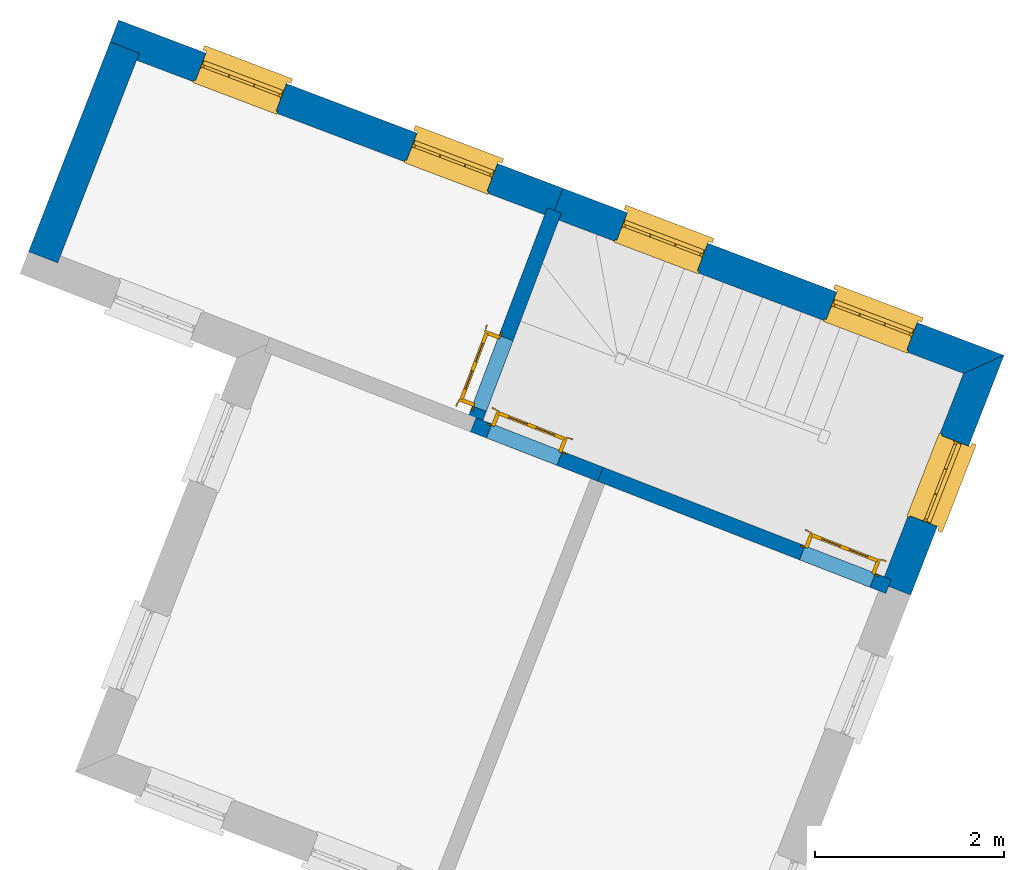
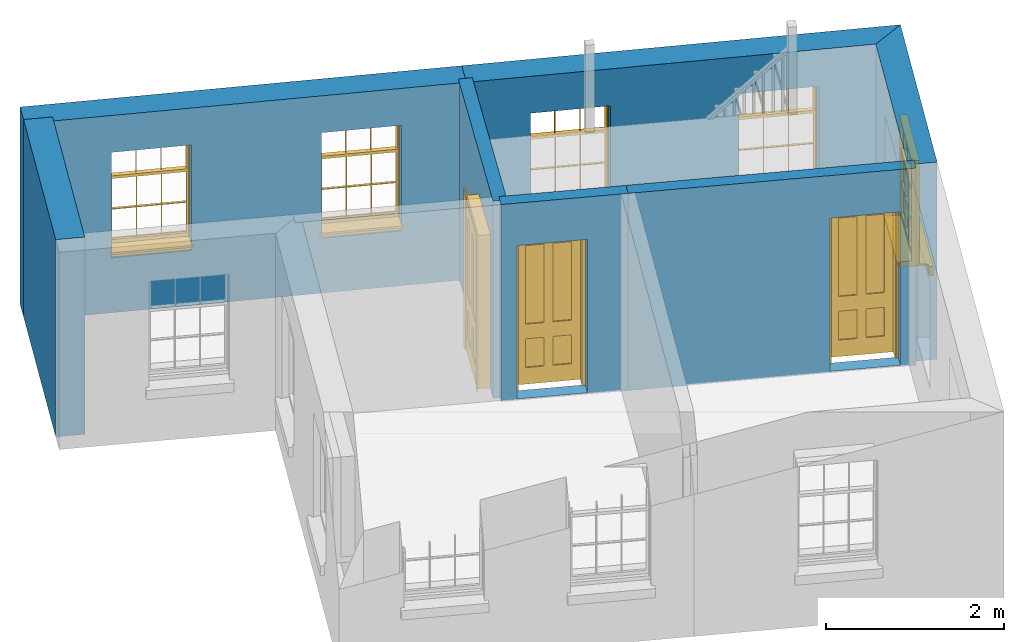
# One storey, part 2 of 2: 7 walls, 5 windows, 3 doors, 8 openings.
"""IFC4 building model written with IfcOpenShell, lengths in metres."""

from ifc_helpers import new_model, si_unit, frame, origin, origin_with_axes, place, context, subcontext, project, spatial, polyline, outline, extrude, faceted_brep, source, transform, mapped, material, layer, layer_set, layer_usage, type_object, type_shapes, element, fill, save


model = new_model("IFC4")

# Units and contexts
model_context = context("Model", 3, world=origin_with_axes())
body_context = subcontext(model_context, "Body", "Model", "MODEL_VIEW")
ifc_project = project(units=[si_unit("PLANEANGLEUNIT", "RADIAN"), si_unit("MASSUNIT", "GRAM", prefix="KILO"), si_unit("FORCEUNIT", "NEWTON", prefix="KILO"), si_unit("LENGTHUNIT", "METRE"), si_unit("AREAUNIT", "SQUARE_METRE"), si_unit("VOLUMEUNIT", "CUBIC_METRE")], contexts=[model_context, model_context])

# Sites, building, storey
site_1_placement = place(None, origin_with_axes())
site_1 = spatial("IfcSite", under=ifc_project, at=site_1_placement, Name="Tamar")
site_2_placement = place(site_1_placement, origin_with_axes())
site_2 = spatial("IfcSite", under=site_1, at=site_2_placement, Name="Site plot-8", CompositionType="ELEMENT")
building_placement = place(None, origin_with_axes())
building = spatial("IfcBuilding", under=site_2, at=building_placement, Name="Building plot-8", CompositionType="ELEMENT")
storey_placement = place(None, frame((0.0, 0.0, 28.85), z_axis=(0.0, 0.0, 1.0), x_axis=(1.0, 0.0, 0.0)))
storey = spatial("IfcBuildingStorey", under=building, at=storey_placement, Name="plot-8 1", CompositionType="ELEMENT", Elevation=28.85)

# Wall, opening, window
ifc_material_1 = material(Name="Masonry")
ifc_layer_1 = layer(ifc_material_1, 0.33, ventilated=False)
ifc_layer_set_1 = layer_set([ifc_layer_1], Name="exterior_0.08_0.25")
ifc_layer_usage_1 = layer_usage(ifc_layer_set_1, "AXIS2", "POSITIVE", -0.25)
wall_type_1 = type_object("IfcWallType", Name="exterior_0.08_0.25", PredefinedType="SOLIDWALL", material=ifc_layer_set_1)
wall_1_placement = place(storey_placement, frame((230.544976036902, 306.768588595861, 0.0), z_axis=(0.0, 0.0, 1.0), x_axis=(0.362808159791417, 0.931863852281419, 0.0)))
wall_1 = element("IfcWall", 1, at=wall_1_placement, inside=storey, type_object=wall_type_1, material=ifc_layer_usage_1, Name="exterior", context=body_context, shape_type="SweptSolid", body=[
    extrude(outline(polyline([(2.13567077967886e-14, 0.0800000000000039), (-2.03572844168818e-14, -0.249999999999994), (2.71687862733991, -0.249999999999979), (2.38382254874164, 0.0800000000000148), (2.13567077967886e-14, 0.0800000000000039)])), origin_with_axes(), (0.0, 0.0, 1.0), 2.7),
])
opening_1_placement = place(wall_1_placement, frame((0.777281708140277, 0.0, 0.75)))
opening_1 = element("IfcOpeningElement", 2, at=opening_1_placement, cuts=wall_1, Name="My Opening", ObjectType="Opening", context=body_context, shape_type="SweptSolid", body=[
    extrude(outline(polyline([(0.0, -0.269999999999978), (0.910000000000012, -0.269999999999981), (0.909999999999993, 1.1), (-1.94289029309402e-14, 1.1), (0.0, -0.269999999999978)])), origin_with_axes(), (0.0, 0.0, 1.0), 1.445),
])
window_type = type_object("IfcWindowType", Name="sash_shorter", PartitioningType="DOUBLE_PANEL_HORIZONTAL", PredefinedType="NOTDEFINED")
shared_shape_1 = source(origin(), body_context, "Body", "Brep", [
    faceted_brep([(0.876875, 0.145, 0.999097), (0.876875, 0.145, 1.411875), (0.9, 0.145, 1.435), (0.033125, 0.145, 1.411875), (0.033125, 0.145, 0.999097), (0.01, 0.145, 1.435), (0.033125, 0.115, 1.411875), (0.01, 0.115, 1.435), (0.033125, 0.115, 0.999097), (0.876875, 0.115, 1.411875), (0.876875, 0.115, 0.999097), (0.9, 0.115, 1.435), (0.033125, 0.145, 0.960972), (0.01, 0.145, 0.960972), (0.033125, 0.145, 0.548195), (0.876875, 0.145, 0.960972), (0.876875, 0.145, 0.548195), (0.9, 0.145, 0.960972), (0.876875, 0.145, 0.538195), (0.876875, 0.145, 0.125417), (0.9, 0.145, 0.077167), (0.033125, 0.145, 0.125417), (0.033125, 0.145, 0.538195), (0.01, 0.145, 0.077167), (0.9, 0.115, 0.960972), (0.01, 0.115, 0.960972), (-0.0425, 0.0, 0.01), (-0.0425, -0.05, 0.001667), (0.0, 0.0, 0.01), (0.9525, 0.0, 0.01), (0.91, 0.0, 0.01), (0.9525, -0.05, 0.001667), (-0.02, 0.33, 0.077167), (0.0, 0.33, 0.077167), (-0.02, 0.36, 0.077167), (0.0, 0.19, 0.077167), (0.01, 0.19, 0.077167), (0.91, 0.19, 0.077167), (0.91, 0.33, 0.077167), (0.9, 0.19, 0.077167), (0.93, 0.33, 0.077167), (0.93, 0.36, 0.077167), (0.01, 0.145, 0.999097), (0.01, 0.175, 0.999097), (0.9, 0.145, 0.999097), (0.9, 0.175, 0.999097), (0.876875, 0.175, 0.125417), (0.876875, 0.175, 0.538195), (0.9, 0.175, 0.077167), (0.876875, 0.175, 0.548195), (0.876875, 0.175, 0.960972), (0.033125, 0.175, 0.125417), (0.01, 0.175, 0.077167), (0.033125, 0.175, 0.538195), (0.033125, 0.175, 0.960972), (0.033125, 0.175, 0.548195), (-0.02, 0.33, 0.052167), (-0.02, 0.36, 0.052167), (0.93, 0.36, 0.052167), (0.93, 0.33, 0.052167), (0.91, 0.33, 0.052167), (0.0, 0.33, 0.052167), (0.91, 0.1, 0.026667), (0.0, 0.1, 0.026667), (-0.0425, -0.05, -0.123333), (0.9525, -0.05, -0.123333), (-0.0425, 0.0, -0.123333), (0.9525, 0.0, -0.123333), (0.01, 0.19, 1.435), (0.9, 0.19, 1.435), (0.0, 0.19, 1.445), (0.91, 0.19, 1.445), (0.01, 0.1, 0.077167), (0.9, 0.1, 0.077167), (0.592292, 0.145, 0.125417), (0.592292, 0.175, 0.125417), (0.317708, 0.175, 0.125417), (0.317708, 0.145, 0.125417), (0.592292, 0.145, 0.548195), (0.317708, 0.145, 0.548195), (0.317708, 0.145, 0.538195), (0.592292, 0.145, 0.538195), (0.592292, 0.175, 0.548195), (0.317708, 0.175, 0.548195), (0.602292, 0.175, 0.548195), (0.602292, 0.145, 0.548195), (0.317708, 0.175, 0.538195), (0.307708, 0.175, 0.125417), (0.307708, 0.175, 0.538195), (0.602292, 0.175, 0.538195), (0.602292, 0.175, 0.125417), (0.592292, 0.175, 0.538195), (0.307708, 0.175, 0.548195), (0.317708, 0.175, 0.960972), (0.307708, 0.175, 0.960972), (0.602292, 0.175, 0.960972), (0.592292, 0.175, 0.960972), (0.307708, 0.145, 0.538195), (0.307708, 0.145, 0.125417), (0.307708, 0.145, 0.548195), (0.307708, 0.145, 0.960972), (0.592292, 0.145, 0.960972), (0.317708, 0.145, 0.960972), (0.602292, 0.145, 0.960972), (0.602292, 0.145, 0.538195), (0.602292, 0.145, 0.125417), (0.317708, 0.115, 1.411875), (0.307708, 0.115, 1.411875), (0.307708, 0.115, 0.999097), (0.317708, 0.115, 0.999097), (0.602292, 0.115, 1.411875), (0.592292, 0.115, 1.411875), (0.592292, 0.115, 0.999097), (0.602292, 0.115, 0.999097), (0.317708, 0.145, 0.999097), (0.307708, 0.145, 0.999097), (0.307708, 0.145, 1.411875), (0.317708, 0.145, 1.411875), (0.602292, 0.145, 0.999097), (0.592292, 0.145, 0.999097), (0.592292, 0.145, 1.411875), (0.602292, 0.145, 1.411875), (0.91, 0.1, 1.445), (0.9, 0.1, 1.435), (0.01, 0.1, 1.435), (0.0, 0.1, 1.445), (0.91, 0.0, 0.0), (0.0, 0.0, 0.0), (0.91, 0.33, 0.0), (0.0, 0.33, 0.0)], [[[0, 1, 2]], [[3, 4, 5]], [[6, 7, 8]], [[9, 10, 11]], [[12, 13, 14]], [[15, 16, 17]], [[18, 19, 20]], [[21, 22, 23]], [[24, 15, 17]], [[13, 12, 25]], [[26, 27, 28]], [[29, 30, 31]], [[32, 33, 34]], [[35, 36, 33]], [[37, 38, 39]], [[40, 41, 38]], [[42, 4, 43]], [[44, 45, 0]], [[46, 47, 48]], [[49, 50, 45]], [[51, 52, 53]], [[54, 55, 43]], [[38, 33, 36, 39]], [[41, 34, 33, 38]], [[56, 32, 34, 57]], [[57, 34, 41, 58]], [[58, 41, 40, 59]], [[57, 58, 60, 61]], [[52, 48, 39, 36]], [[62, 63, 28, 30]], [[27, 31, 30, 28]], [[27, 64, 65, 31]], [[66, 67, 65, 64]], [[2, 5, 68, 69]], [[68, 70, 71, 69]], [[20, 23, 72, 73]], [[73, 72, 63, 62]], [[74, 75, 76, 77]], [[78, 79, 80, 81]], [[78, 82, 83, 79]], [[16, 49, 84, 85]], [[86, 76, 87, 88]], [[89, 90, 75, 91]], [[92, 88, 53, 55]], [[82, 91, 86, 83]], [[93, 83, 92, 94]], [[95, 84, 82, 96]], [[89, 84, 49, 47]], [[97, 88, 87, 98]], [[22, 53, 88, 97]], [[81, 91, 75, 74]], [[80, 86, 91, 81]], [[77, 76, 86, 80]], [[99, 92, 55, 14]], [[100, 94, 92, 99]], [[101, 96, 82, 78]], [[79, 83, 93, 102]], [[85, 84, 95, 103]], [[104, 89, 47, 18]], [[105, 90, 89, 104]], [[104, 18, 16, 85]], [[80, 97, 98, 77]], [[104, 81, 74, 105]], [[103, 101, 78, 85]], [[99, 14, 22, 97]], [[102, 100, 99, 79]], [[106, 107, 108, 109]], [[110, 111, 112, 113]], [[114, 115, 116, 117]], [[118, 119, 120, 121]], [[107, 116, 115, 108]], [[111, 120, 119, 112]], [[109, 114, 117, 106]], [[113, 118, 121, 110]], [[85, 78, 81, 104]], [[84, 89, 91, 82]], [[83, 86, 88, 92]], [[79, 99, 97, 80]], [[109, 112, 119, 114]], [[102, 93, 96, 101]], [[106, 117, 120, 111]], [[98, 87, 51, 21]], [[6, 3, 116, 107]], [[110, 121, 1, 9]], [[19, 46, 90, 105]], [[26, 66, 64, 27]], [[29, 31, 65, 67]], [[25, 24, 112, 109]], [[11, 7, 106, 111]], [[75, 48, 52, 76]], [[43, 45, 96, 93]], [[45, 43, 114, 119]], [[5, 2, 120, 117]], [[24, 25, 102, 101]], [[42, 5, 4]], [[2, 44, 0]], [[49, 45, 48, 47]], [[52, 43, 55, 53]], [[14, 13, 23, 22]], [[20, 17, 16, 18]], [[24, 11, 10]], [[25, 8, 7]], [[8, 4, 3, 6]], [[9, 1, 0, 10]], [[15, 50, 49, 16]], [[18, 47, 46, 19]], [[21, 51, 53, 22]], [[14, 55, 54, 12]], [[44, 2, 69, 45]], [[68, 5, 42, 43]], [[36, 35, 70, 68]], [[39, 69, 71, 37]], [[62, 122, 123, 73]], [[63, 72, 124, 125]], [[8, 108, 115, 4]], [[113, 10, 0, 118]], [[94, 100, 12, 54]], [[17, 20, 73, 24]], [[72, 23, 13, 25]], [[52, 36, 68, 43]], [[69, 39, 48, 45]], [[11, 24, 73, 123]], [[7, 124, 72, 25]], [[23, 77, 98]], [[98, 21, 23]], [[105, 74, 20]], [[20, 19, 105]], [[20, 74, 77, 23]], [[113, 112, 24]], [[24, 10, 113]], [[25, 109, 108]], [[108, 8, 25]], [[110, 9, 11]], [[11, 111, 110]], [[7, 6, 107]], [[107, 106, 7]], [[5, 117, 116]], [[116, 3, 5]], [[121, 120, 2]], [[2, 1, 121]], [[11, 123, 124, 7]], [[122, 125, 124, 123]], [[43, 93, 94]], [[94, 54, 43]], [[96, 45, 95]], [[50, 95, 45]], [[15, 103, 95, 50]], [[48, 75, 90]], [[90, 46, 48]], [[87, 76, 52]], [[52, 51, 87]], [[103, 15, 24]], [[24, 101, 103]], [[100, 102, 25]], [[25, 12, 100]], [[115, 114, 43]], [[43, 4, 115]], [[118, 0, 45]], [[45, 119, 118]], [[71, 70, 125, 122]], [[70, 35, 63, 125]], [[122, 62, 37, 71]], [[126, 67, 66, 127]], [[60, 58, 59]], [[38, 60, 59, 40]], [[61, 56, 57]], [[32, 56, 61, 33]], [[61, 60, 128, 129]], [[62, 60, 38, 37]], [[126, 128, 60, 62]], [[33, 61, 63, 35]], [[61, 129, 127, 63]], [[128, 126, 127, 129]], [[28, 127, 66, 26]], [[63, 127, 28]], [[29, 67, 126, 30]], [[30, 126, 62]]]),
])
type_shapes(window_type, [shared_shape_1])
window_1_placement = place(storey_placement, frame((231.078583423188, 307.394951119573, 0.75), z_axis=(0.0, 0.0, 1.0), x_axis=(0.330155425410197, 0.847996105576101, 0.0)))
window_1 = element("IfcWindow", 3, at=window_1_placement, inside=storey, type_object=window_type, Name="circulation outside window", OverallHeight=1.445, OverallWidth=0.91, context=body_context, shape_type="MappedRepresentation", body=[
    mapped(shared_shape_1, transform((0.0, 0.0, 0.0), scale=1.0)),
])
fill(opening_1, window_1)

# Wall, openings, windows
wall_2_placement = place(storey_placement, frame((231.439139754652, 309.065226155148, 0.0), z_axis=(0.0, 0.0, 1.0), x_axis=(-0.935168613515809, 0.354202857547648, 0.0)))
wall_2 = element("IfcWall", 4, at=wall_2_placement, inside=storey, type_object=wall_type_1, material=ifc_layer_usage_1, Name="exterior", context=body_context, shape_type="SweptSolid", body=[
    extrude(outline(polyline([(0.0807408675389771, 0.0799999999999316), (-0.252315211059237, -0.250000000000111), (4.73179125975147, -0.24999999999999), (4.73179125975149, 0.0799999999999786), (0.0807408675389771, 0.0799999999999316)])), origin_with_axes(), (0.0, 0.0, 1.0), 2.7),
])
opening_2_placement = place(wall_2_placement, frame((0.727947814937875, 0.0, 0.75)))
opening_2 = element("IfcOpeningElement", 5, at=opening_2_placement, cuts=wall_2, Name="My Opening", ObjectType="Opening", context=body_context, shape_type="SweptSolid", body=[
    extrude(outline(polyline([(0.0, -0.270000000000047), (0.909999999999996, -0.270000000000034), (0.909999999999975, 1.10000000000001), (-2.16493489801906e-14, 1.1), (0.0, -0.270000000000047)])), origin_with_axes(), (0.0, 0.0, 1.0), 1.445),
])
opening_3_placement = place(wall_2_placement, frame((3.0938434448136, 0.0, 0.75)))
opening_3 = element("IfcOpeningElement", 6, at=opening_3_placement, cuts=wall_2, Name="My Opening", ObjectType="Opening", context=body_context, shape_type="SweptSolid", body=[
    extrude(outline(polyline([(0.0, -0.270000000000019), (0.909999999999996, -0.270000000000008), (0.909999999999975, 1.10000000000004), (-2.22044604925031e-14, 1.10000000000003), (0.0, -0.270000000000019)])), origin_with_axes(), (0.0, 0.0, 1.0), 1.445),
])
window_2_placement = place(storey_placement, frame((230.854020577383, 309.575562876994, 0.75), z_axis=(0.0, 0.0, 1.0), x_axis=(-0.851003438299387, 0.322324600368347, 0.0)))
window_2 = element("IfcWindow", 7, at=window_2_placement, inside=storey, type_object=window_type, Name="circulation outside window", OverallHeight=1.445, OverallWidth=0.91, context=body_context, shape_type="MappedRepresentation", body=[
    mapped(shared_shape_1, transform((0.0, 0.0, 0.0), scale=1.0)),
])
fill(opening_2, window_2)
window_3_placement = place(storey_placement, frame((228.641509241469, 310.413569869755, 0.75), z_axis=(0.0, 0.0, 1.0), x_axis=(-0.851003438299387, 0.322324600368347, 0.0)))
window_3 = element("IfcWindow", 8, at=window_3_placement, inside=storey, type_object=window_type, Name="circulation outside window", OverallHeight=1.445, OverallWidth=0.91, context=body_context, shape_type="MappedRepresentation", body=[
    mapped(shared_shape_1, transform((0.0, 0.0, 0.0), scale=1.0)),
])
fill(opening_3, window_3)

wall_3_placement = place(storey_placement, frame((227.014117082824, 310.741240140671, 0.0), z_axis=(0.0, 0.0, 1.0), x_axis=(-0.935168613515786, 0.354202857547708, 0.0)))
wall_3 = element("IfcWall", 9, at=wall_3_placement, inside=storey, type_object=wall_type_1, material=ifc_layer_usage_1, Name="exterior", context=body_context, shape_type="SweptSolid", body=[
    extrude(outline(polyline([(1.22972879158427e-14, 0.0799999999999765), (1.25608282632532e-14, -0.249999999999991), (5.01861237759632, -0.250000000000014), (5.01861237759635, 0.0799999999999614), (1.22972879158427e-14, 0.0799999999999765)])), origin_with_axes(), (0.0, 0.0, 1.0), 2.7),
])
opening_4_placement = place(wall_3_placement, frame((0.737153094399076, 0.0, 0.75)))
opening_4 = element("IfcOpeningElement", 10, at=opening_4_placement, cuts=wall_3, Name="My Opening", ObjectType="Opening", context=body_context, shape_type="SweptSolid", body=[
    extrude(outline(polyline([(0.0, -0.269999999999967), (0.909999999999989, -0.269999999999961), (0.910000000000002, 1.10000000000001), (1.22124532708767e-14, 1.1), (0.0, -0.269999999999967)])), origin_with_axes(), (0.0, 0.0, 1.0), 1.445),
])
opening_5_placement = place(wall_3_placement, frame((3.12145928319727, 0.0, 0.75)))
opening_5 = element("IfcOpeningElement", 11, at=opening_5_placement, cuts=wall_3, Name="My Opening", ObjectType="Opening", context=body_context, shape_type="SweptSolid", body=[
    extrude(outline(polyline([(0.0, -0.269999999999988), (0.90999999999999, -0.269999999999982), (0.910000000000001, 1.09999999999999), (1.19904086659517e-14, 1.09999999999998), (0.0, -0.269999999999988)])), origin_with_axes(), (0.0, 0.0, 1.0), 1.445),
])
window_4_placement = place(storey_placement, frame((226.420389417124, 311.254837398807, 0.75), z_axis=(0.0, 0.0, 1.0), x_axis=(-0.851003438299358, 0.322324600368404, 0.0)))
window_4 = element("IfcWindow", 12, at=window_4_placement, inside=storey, type_object=window_type, Name="toilet outside window", OverallHeight=1.445, OverallWidth=0.91, context=body_context, shape_type="MappedRepresentation", body=[
    mapped(shared_shape_1, transform((0.0, 0.0, 0.0), scale=1.0)),
])
fill(opening_4, window_4)
window_5_placement = place(storey_placement, frame((224.190661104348, 312.099365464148, 0.75), z_axis=(0.0, 0.0, 1.0), x_axis=(-0.851003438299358, 0.322324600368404, 0.0)))
window_5 = element("IfcWindow", 13, at=window_5_placement, inside=storey, type_object=window_type, Name="toilet outside window", OverallHeight=1.445, OverallWidth=0.91, context=body_context, shape_type="MappedRepresentation", body=[
    mapped(shared_shape_1, transform((0.0, 0.0, 0.0), scale=1.0)),
])
fill(opening_5, window_5)

# Wall
ifc_material_2 = material(Name="Masonry")
ifc_layer_2 = layer(ifc_material_2, 0.33, ventilated=False)
ifc_layer_set_2 = layer_set([ifc_layer_2], Name="party_0.08_0.25")
ifc_layer_usage_2 = layer_usage(ifc_layer_set_2, "AXIS2", "POSITIVE", -0.25)
wall_type_2 = type_object("IfcWallType", Name="party_0.08_0.25", PredefinedType="SOLIDWALL", material=ifc_layer_set_2)
wall_4_placement = place(storey_placement, frame((222.554660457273, 312.430296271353, 0.0), z_axis=(0.0, 0.0, 1.0), x_axis=(-0.362808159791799, -0.93186385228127, 0.0)))
element("IfcWall", 14, at=wall_4_placement, inside=storey, type_object=wall_type_2, material=ifc_layer_usage_2, Name="party", context=body_context, shape_type="SweptSolid", body=[
    extrude(outline(polyline([(-1.1525488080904e-14, 0.0800000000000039), (1.90001218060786e-14, -0.249999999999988), (2.37698903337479, -0.249999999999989), (2.37698903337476, 0.0800000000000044), (-1.1525488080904e-14, 0.0800000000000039)])), origin_with_axes(), (0.0, 0.0, 1.0), 2.7),
])

# Wall, opening, door
ifc_material_3 = material(Name="Masonry")
ifc_layer_3 = layer(ifc_material_3, 0.16, ventilated=False)
ifc_layer_set_3 = layer_set([ifc_layer_3], Name="interior_0.08_0.08")
ifc_layer_usage_3 = layer_usage(ifc_layer_set_3, "AXIS2", "POSITIVE", -0.08)
wall_type_3 = type_object("IfcWallType", Name="interior_0.08_0.08", PredefinedType="SOLIDWALL", material=ifc_layer_set_3)
wall_5_placement = place(storey_placement, frame((226.156574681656, 308.477151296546, 0.0), z_axis=(0.0, 0.0, 1.0), x_axis=(0.354202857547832, 0.935168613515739, 0.0)))
wall_5 = element("IfcWall", 15, at=wall_5_placement, inside=storey, type_object=wall_type_3, material=ifc_layer_usage_3, Name="interior", context=body_context, shape_type="SweptSolid", body=[
    extrude(outline(polyline([(1.81770290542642e-14, 0.0800000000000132), (-1.8149468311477e-14, -0.0800000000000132), (2.4210487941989, -0.0800000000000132), (2.42104879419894, 0.0800000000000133), (1.81770290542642e-14, 0.0800000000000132)])), origin_with_axes(), (0.0, 0.0, 1.0), 2.7),
])
opening_6_placement = place(wall_5_placement, frame((0.179999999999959, 0.0, 0.0199999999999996)))
opening_6 = element("IfcOpeningElement", 16, at=opening_6_placement, cuts=wall_5, Name="My Opening", ObjectType="Opening", context=body_context, shape_type="SweptSolid", body=[
    extrude(outline(polyline([(0.0, -0.0999999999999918), (0.800000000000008, -0.100000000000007), (0.800000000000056, 1.09999999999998), (4.68514116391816e-14, 1.1), (0.0, -0.0999999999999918)])), origin_with_axes(), (0.0, 0.0, 1.0), 2.1),
])
door_type = type_object("IfcDoorType", Name="door_inside", OperationType="SINGLE_SWING_LEFT", PredefinedType="NOTDEFINED")
shared_shape_2 = source(origin(), body_context, "Body", "Brep", [
    faceted_brep([(0.773, 0.33, 1.895), (0.66, 0.33, 1.895), (0.66, 0.33, 2.073), (0.773, 0.33, 2.073), (0.773, 0.33, 0.82), (0.66, 0.33, 0.82), (0.45, 0.33, 1.895), (0.45, 0.33, 2.073), (0.773, 0.33, 0.62), (0.66, 0.33, 0.62), (0.66, 0.315, 0.82), (0.66, 0.315, 1.895), (0.45, 0.315, 1.895), (0.35, 0.33, 1.895), (0.35, 0.33, 2.073), (0.773, 0.33, 0.225), (0.66, 0.33, 0.225), (0.45, 0.33, 0.62), (0.45, 0.33, 0.82), (0.45, 0.315, 0.82), (0.35, 0.33, 0.82), (0.14, 0.33, 2.073), (0.14, 0.33, 1.895), (0.773, 0.33, 0.0), (0.66, 0.33, 0.0), (0.66, 0.315, 0.225), (0.66, 0.315, 0.62), (0.45, 0.315, 0.62), (0.35, 0.33, 0.62), (0.35, 0.315, 0.82), (0.35, 0.315, 1.895), (0.14, 0.315, 1.895), (0.027, 0.33, 2.073), (0.027, 0.33, 1.895), (0.773, 0.292, 0.0), (0.66, 0.292, 0.0), (0.45, 0.33, 0.0), (0.45, 0.33, 0.225), (0.45, 0.315, 0.225), (0.35, 0.33, 0.225), (0.14, 0.33, 0.82), (0.14, 0.33, 0.62), (0.14, 0.315, 0.82), (0.027, 0.33, 0.82), (0.773, 0.292, 0.225), (0.66, 0.292, 0.225), (0.45, 0.292, 0.0), (0.35, 0.33, 0.0), (0.35, 0.315, 0.225), (0.35, 0.315, 0.62), (0.14, 0.315, 0.62), (0.027, 0.33, 0.62), (0.773, 0.292, 0.62), (0.66, 0.292, 0.62), (0.45, 0.292, 0.225), (0.35, 0.292, 0.0), (0.14, 0.33, 0.225), (0.14, 0.33, 0.0), (0.14, 0.315, 0.225), (0.027, 0.33, 0.225), (0.773, 0.292, 0.82), (0.66, 0.292, 0.82), (0.66, 0.307, 0.62), (0.66, 0.307, 0.225), (0.45, 0.307, 0.225), (0.35, 0.292, 0.225), (0.14, 0.292, 0.0), (0.027, 0.33, 0.0), (0.773, 0.292, 1.895), (0.66, 0.292, 1.895), (0.45, 0.292, 0.62), (0.45, 0.292, 0.82), (0.45, 0.307, 0.62), (0.35, 0.292, 0.62), (0.14, 0.292, 0.225), (0.027, 0.292, 0.0), (0.773, 0.292, 2.073), (0.66, 0.292, 2.073), (0.66, 0.307, 1.895), (0.66, 0.307, 0.82), (0.45, 0.307, 0.82), (0.35, 0.292, 0.82), (0.35, 0.307, 0.62), (0.35, 0.307, 0.225), (0.14, 0.307, 0.225), (0.027, 0.292, 0.225), (0.45, 0.292, 1.895), (0.45, 0.292, 2.073), (0.45, 0.307, 1.895), (0.35, 0.292, 1.895), (0.14, 0.292, 0.82), (0.14, 0.292, 0.62), (0.14, 0.307, 0.62), (0.027, 0.292, 0.62), (0.35, 0.292, 2.073), (0.35, 0.307, 1.895), (0.35, 0.307, 0.82), (0.14, 0.307, 0.82), (0.027, 0.292, 0.82), (0.14, 0.292, 2.073), (0.14, 0.292, 1.895), (0.14, 0.307, 1.895), (0.027, 0.292, 1.895), (0.027, 0.292, 2.073), (0.02, 0.335, 0.0), (0.005, 0.34, 0.0), (0.005, 0.34, 2.095), (0.02, 0.335, 2.08), (0.02, 0.33, 0.0), (0.0, 0.335, 0.0), (0.0, 0.335, 2.1), (0.795, 0.34, 2.095), (0.78, 0.335, 2.08), (0.02, 0.33, 2.08), (0.0, 0.33, 0.0), (-0.032, 0.345, 0.0), (-0.032, 0.345, 2.132), (0.8, 0.335, 2.1), (0.795, 0.34, 0.0), (0.78, 0.335, 0.0), (0.78, 0.33, 2.08), (0.04, 0.29, 0.0), (0.025, 0.29, 0.0), (0.025, 0.29, 2.075), (0.04, 0.29, 2.06), (-0.04, 0.34, 0.0), (-0.04, 0.34, 2.14), (0.832, 0.345, 2.132), (0.8, 0.335, 0.0), (0.78, 0.33, 0.0), (0.8, 0.33, 0.0), (0.86, 0.33, 0.0), (0.86, 0.33, 2.16), (0.8, 0.33, 2.1), (-0.06, 0.33, 2.16), (0.0, 0.33, 2.1), (-0.06, 0.33, 0.0), (-0.04, 0.345, 0.0), (-0.04, 0.345, 2.14), (0.84, 0.34, 2.14), (0.832, 0.345, 0.0), (0.84, 0.34, 0.0), (0.86, 0.345, 0.0), (0.86, 0.345, 2.16), (-0.06, 0.345, 2.16), (-0.06, 0.345, 0.0), (0.84, 0.345, 0.0), (0.84, 0.345, 2.14), (-0.025, 0.155, 0.0), (-0.025, 0.16, 0.0), (-0.025, 0.16, 2.125), (-0.025, 0.155, 2.125), (-0.017, 0.155, 0.0), (-0.017, 0.155, 2.117), (0.825, 0.16, 2.125), (0.825, 0.155, 2.125), (0.825, 0.155, 0.0), (0.845, 0.155, 0.0), (-0.045, 0.155, 2.145), (-0.045, 0.155, 0.0), (0.845, 0.155, 2.145), (0.015, 0.165, 0.0), (0.015, 0.165, 2.085), (0.817, 0.155, 2.117), (0.825, 0.16, 0.0), (0.845, 0.17, 0.0), (0.845, 0.17, 2.145), (-0.045, 0.17, 2.145), (-0.045, 0.17, 0.0), (0.02, 0.16, 0.0), (0.02, 0.16, 2.08), (0.785, 0.165, 2.085), (0.817, 0.155, 0.0), (0.8, 0.17, 0.0), (0.8, 0.17, 2.1), (0.0, 0.17, 2.1), (0.0, 0.17, 0.0), (0.035, 0.165, 0.0), (0.035, 0.165, 2.065), (0.78, 0.16, 2.08), (0.785, 0.165, 0.0), (0.775, 0.29, 2.075), (0.76, 0.29, 2.06), (0.035, 0.17, 2.065), (0.035, 0.17, 0.0), (0.765, 0.165, 2.065), (0.78, 0.16, 0.0), (0.765, 0.17, 0.0), (0.765, 0.17, 2.065), (0.765, 0.165, 0.0), (0.04, 0.17, 2.06), (0.04, 0.17, 0.0), (0.76, 0.17, 2.06), (0.76, 0.17, 0.0), (0.76, 0.29, 0.0), (0.775, 0.29, 0.0), (0.025, 0.33, 0.0), (0.025, 0.33, 2.075), (0.775, 0.33, 0.0), (0.775, 0.33, 2.075)], [[[0, 1, 2, 3]], [[1, 0, 4, 5]], [[1, 6, 7, 2]], [[8, 9, 5, 4]], [[1, 5, 10, 11]], [[6, 1, 11, 12]], [[6, 13, 14, 7]], [[15, 16, 9, 8]], [[9, 17, 18, 5]], [[5, 18, 19, 10]], [[10, 19, 12, 11]], [[18, 6, 12, 19]], [[18, 20, 13, 6]], [[21, 14, 13, 22]], [[23, 24, 16, 15]], [[9, 16, 25, 26]], [[17, 9, 26, 27]], [[17, 28, 20, 18]], [[13, 20, 29, 30]], [[22, 13, 30, 31]], [[32, 21, 22, 33]], [[34, 35, 24, 23]], [[24, 36, 37, 16]], [[16, 37, 38, 25]], [[25, 38, 27, 26]], [[37, 17, 27, 38]], [[37, 39, 28, 17]], [[40, 20, 28, 41]], [[20, 40, 42, 29]], [[31, 30, 29, 42]], [[40, 22, 31, 42]], [[33, 22, 40, 43]], [[35, 34, 44, 45]], [[35, 46, 36, 24]], [[36, 47, 39, 37]], [[28, 39, 48, 49]], [[41, 28, 49, 50]], [[43, 40, 41, 51]], [[45, 44, 52, 53]], [[46, 35, 45, 54]], [[46, 55, 47, 36]], [[56, 39, 47, 57]], [[39, 56, 58, 48]], [[50, 49, 48, 58]], [[56, 41, 50, 58]], [[51, 41, 56, 59]], [[53, 52, 60, 61]], [[45, 53, 62, 63]], [[54, 45, 63, 64]], [[55, 46, 54, 65]], [[55, 66, 57, 47]], [[59, 56, 57, 67]], [[61, 60, 68, 69]], [[70, 53, 61, 71]], [[53, 70, 72, 62]], [[72, 64, 63, 62]], [[70, 54, 64, 72]], [[65, 54, 70, 73]], [[65, 74, 66, 55]], [[67, 57, 66, 75]], [[69, 68, 76, 77]], [[61, 69, 78, 79]], [[71, 61, 79, 80]], [[73, 70, 71, 81]], [[65, 73, 82, 83]], [[74, 65, 83, 84]], [[74, 85, 75, 66]], [[86, 69, 77, 87]], [[69, 86, 88, 78]], [[88, 80, 79, 78]], [[86, 71, 80, 88]], [[81, 71, 86, 89]], [[73, 81, 90, 91]], [[73, 91, 92, 82]], [[83, 82, 92, 84]], [[91, 74, 84, 92]], [[91, 93, 85, 74]], [[89, 86, 87, 94]], [[81, 89, 95, 96]], [[90, 81, 96, 97]], [[90, 98, 93, 91]], [[94, 99, 100, 89]], [[89, 100, 101, 95]], [[101, 97, 96, 95]], [[100, 90, 97, 101]], [[100, 102, 98, 90]], [[99, 103, 102, 100]], [[32, 103, 99, 21]], [[102, 103, 32, 33]], [[98, 102, 33, 43]], [[21, 99, 94, 14]], [[94, 87, 7, 14]], [[7, 87, 77, 2]], [[76, 3, 2, 77]], [[43, 51, 93, 98]], [[51, 59, 85, 93]], [[67, 75, 85, 59]], [[34, 23, 15, 44]], [[44, 15, 8, 52]], [[52, 8, 4, 60]], [[0, 68, 60, 4]], [[0, 3, 76, 68]], [[104, 105, 106, 107]], [[104, 108, 109, 105]], [[105, 109, 110, 106]], [[107, 106, 111, 112]], [[107, 113, 108, 104]], [[114, 109, 108]], [[109, 115, 116, 110]], [[106, 110, 117, 111]], [[112, 111, 118, 119]], [[113, 107, 112, 120]], [[121, 122, 123, 124]], [[115, 109, 114, 125]], [[115, 125, 126, 116]], [[110, 116, 127, 117]], [[111, 117, 128, 118]], [[118, 128, 129, 119]], [[120, 112, 119, 129]], [[130, 129, 128]], [[130, 131, 132, 133]], [[133, 132, 134, 135]], [[135, 134, 136, 114]], [[136, 125, 114]], [[125, 137, 138, 126]], [[116, 126, 139, 127]], [[117, 127, 140, 128]], [[141, 130, 128, 140]], [[131, 130, 141]], [[131, 142, 143, 132]], [[132, 143, 144, 134]], [[134, 144, 145, 136]], [[137, 125, 136, 145]], [[143, 142, 146]], [[143, 146, 147]], [[137, 145, 144]], [[143, 147, 138]], [[138, 137, 144]], [[143, 138, 144]], [[126, 138, 147, 139]], [[127, 139, 141, 140]], [[142, 131, 141, 146]], [[139, 147, 146, 141]], [[148, 149, 150, 151]], [[149, 152, 153, 150]], [[151, 150, 154, 155]], [[155, 156, 157]], [[158, 159, 148]], [[158, 148, 151]], [[155, 157, 160]], [[158, 151, 155]], [[155, 160, 158]], [[152, 161, 162, 153]], [[150, 153, 163, 154]], [[155, 154, 164, 156]], [[156, 164, 165, 157]], [[157, 165, 166, 160]], [[160, 166, 167, 158]], [[158, 167, 168, 159]], [[161, 169, 170, 162]], [[153, 162, 171, 163]], [[154, 163, 172, 164]], [[165, 164, 173]], [[165, 173, 174, 166]], [[166, 174, 175, 167]], [[167, 175, 176, 168]], [[169, 177, 178, 170]], [[162, 170, 179, 171]], [[163, 171, 180, 172]], [[172, 180, 173, 164]], [[124, 123, 181, 182]], [[183, 178, 177, 184]], [[170, 178, 185, 179]], [[171, 179, 186, 180]], [[187, 173, 180]], [[185, 188, 187, 189]], [[188, 185, 178, 183]], [[179, 185, 189, 186]], [[189, 187, 180, 186]], [[190, 183, 184, 191]], [[192, 188, 183, 190]], [[191, 184, 122, 121]], [[124, 190, 191, 121]], [[193, 187, 188, 192]], [[182, 192, 190, 124]], [[184, 176, 122]], [[194, 195, 187, 193]], [[192, 182, 194, 193]], [[161, 176, 184]], [[114, 108, 122, 176]], [[173, 187, 195]], [[152, 149, 176, 161]], [[169, 161, 184, 177]], [[196, 122, 108]], [[176, 175, 135, 114]], [[173, 195, 129, 130]], [[176, 149, 168]], [[123, 122, 196, 197]], [[196, 108, 113, 197]], [[175, 174, 133, 135]], [[198, 129, 195]], [[133, 174, 173, 130]], [[159, 168, 149, 148]], [[181, 123, 197, 199]], [[197, 113, 120, 199]], [[199, 120, 129, 198]], [[195, 181, 199, 198]], [[195, 194, 182, 181]]]),
])
type_shapes(door_type, [shared_shape_2])
door_1_placement = place(storey_placement, frame((226.313848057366, 308.610061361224, 0.0199999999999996), z_axis=(0.0, 0.0, 1.0), x_axis=(0.283362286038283, 0.748134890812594, 0.0)))
door_1 = element("IfcDoor", 17, at=door_1_placement, inside=storey, type_object=door_type, Name="toilet inside door", OverallHeight=2.1, OverallWidth=0.8, context=body_context, shape_type="MappedRepresentation", body=[
    mapped(shared_shape_2, transform((0.0, 0.0, 0.0), scale=1.0)),
])
fill(opening_6, door_1)

wall_6_placement = place(storey_placement, frame((226.156574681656, 308.477151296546, 0.0), z_axis=(0.0, 0.0, 1.0), x_axis=(0.931863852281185, -0.362808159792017, 0.0)))
wall_6 = element("IfcWall", 18, at=wall_6_placement, inside=storey, type_object=wall_type_3, material=ifc_layer_usage_3, Name="interior", context=body_context, shape_type="SweptSolid", body=[
    extrude(outline(polyline([(-3.70768720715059e-15, 0.0800000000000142), (3.68012646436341e-15, -0.0800000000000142), (1.44228726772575, -0.0800000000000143), (1.44228726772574, 0.0800000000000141), (-3.70768720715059e-15, 0.0800000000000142)])), origin_with_axes(), (0.0, 0.0, 1.0), 2.7),
])
opening_7_placement = place(wall_6_placement, frame((0.180000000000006, 0.0, 0.0199999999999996)))
opening_7 = element("IfcOpeningElement", 19, at=opening_7_placement, cuts=wall_6, Name="My Opening", ObjectType="Opening", context=body_context, shape_type="SweptSolid", body=[
    extrude(outline(polyline([(0.0, -0.100000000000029), (0.800000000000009, -0.100000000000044), (0.800000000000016, 1.10000000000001), (6.41153796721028e-15, 1.10000000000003), (0.0, -0.100000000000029)])), origin_with_axes(), (0.0, 0.0, 1.0), 2.1),
])
door_2_placement = place(storey_placement, frame((226.288029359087, 308.318659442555, 0.0199999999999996), z_axis=(0.0, 0.0, 1.0), x_axis=(0.745491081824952, -0.290246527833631, 0.0)))
door_2 = element("IfcDoor", 20, at=door_2_placement, inside=storey, type_object=door_type, Name="bedroom inside door", OverallHeight=2.1, OverallWidth=0.8, context=body_context, shape_type="MappedRepresentation", body=[
    mapped(shared_shape_2, transform((0.0, 0.0, 0.0), scale=1.0)),
])
fill(opening_7, door_2)

wall_7_placement = place(storey_placement, frame((227.500590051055, 307.953877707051, 0.0), z_axis=(0.0, 0.0, 1.0), x_axis=(0.931863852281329, -0.362808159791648, 0.0)))
wall_7 = element("IfcWall", 21, at=wall_7_placement, inside=storey, type_object=wall_type_3, material=ifc_layer_usage_3, Name="interior", context=body_context, shape_type="SweptSolid", body=[
    extrude(outline(polyline([(1.49703833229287e-15, 0.0800000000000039), (-1.50683550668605e-15, -0.0800000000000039), (3.26698581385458, -0.0800000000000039), (3.26698581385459, 0.080000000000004), (1.49703833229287e-15, 0.0800000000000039)])), origin_with_axes(), (0.0, 0.0, 1.0), 2.7),
])
opening_8_placement = place(wall_7_placement, frame((2.28698581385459, 0.0, 0.0199999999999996)))
opening_8 = element("IfcOpeningElement", 22, at=opening_8_placement, cuts=wall_7, Name="My Opening", ObjectType="Opening", context=body_context, shape_type="SweptSolid", body=[
    extrude(outline(polyline([(0.0, -0.100000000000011), (0.799999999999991, -0.099999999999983), (0.799999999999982, 1.1), (-9.76996261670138e-15, 1.09999999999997), (0.0, -0.100000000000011)])), origin_with_axes(), (0.0, 0.0, 1.0), 2.1),
])
door_3_placement = place(storey_placement, frame((229.595468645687, 307.030954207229, 0.0199999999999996), z_axis=(0.0, 0.0, 1.0), x_axis=(0.745491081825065, -0.29024652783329, 0.0)))
door_3 = element("IfcDoor", 23, at=door_3_placement, inside=storey, type_object=door_type, Name="bedroom inside door", OverallHeight=2.1, OverallWidth=0.8, context=body_context, shape_type="MappedRepresentation", body=[
    mapped(shared_shape_2, transform((0.0, 0.0, 0.0), scale=1.0)),
])
fill(opening_8, door_3)

save(model, "model.ifc")
